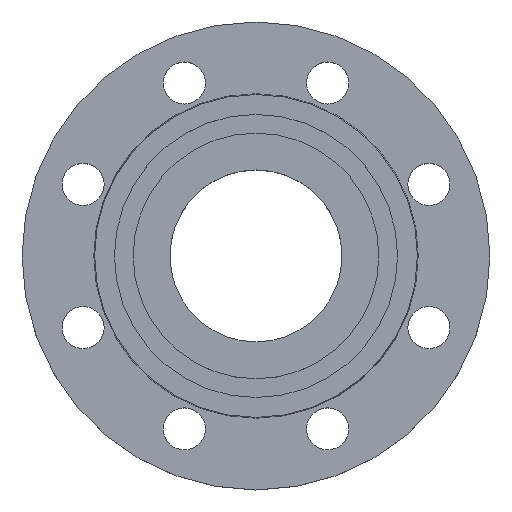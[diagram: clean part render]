
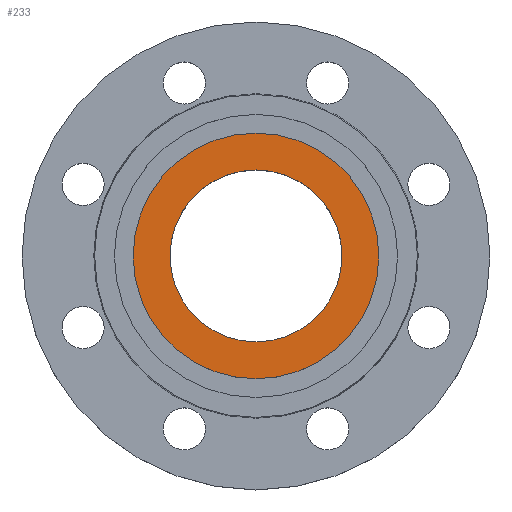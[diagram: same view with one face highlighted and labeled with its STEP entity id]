
A CAD part, top view. The second image highlights one B-rep face of the part: STEP entity #233.
In plain terms, the highlighted planar face has unit normal (0, 0, 1).
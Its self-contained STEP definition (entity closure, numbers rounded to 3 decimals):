
#95 = AXIS2_PLACEMENT_3D ( 'NONE', #670, #653, #648 ) ;
#130 = CIRCLE ( 'NONE', #140, 36.753 ) ;
#140 = AXIS2_PLACEMENT_3D ( 'NONE', #510, #503, #501 ) ;
#141 = CARTESIAN_POINT ( 'NONE',  ( 36.753, 0., 0. ) ) ;
#142 = CARTESIAN_POINT ( 'NONE',  ( -36.753, 0., 0. ) ) ;
#161 = CARTESIAN_POINT ( 'NONE',  ( -52.5, 0., 0. ) ) ;
#206 = CARTESIAN_POINT ( 'NONE',  ( 52.5, 0., 0. ) ) ;
#233 = ADVANCED_FACE ( 'NONE', ( #644, #674 ), #643, .T. ) ;
#247 = DIRECTION ( 'NONE',  ( -1., 0., 0. ) ) ;
#250 = DIRECTION ( 'NONE',  ( 0., 0., -1. ) ) ;
#254 = CARTESIAN_POINT ( 'NONE',  ( 0., 0., 0. ) ) ;
#257 = AXIS2_PLACEMENT_3D ( 'NONE', #303, #302, #301 ) ;
#272 = DIRECTION ( 'NONE',  ( -1., 0., 0. ) ) ;
#275 = DIRECTION ( 'NONE',  ( 0., 0., -1. ) ) ;
#276 = CARTESIAN_POINT ( 'NONE',  ( 0., 0., 0. ) ) ;
#286 = CIRCLE ( 'NONE', #707, 52.5 ) ;
#301 = DIRECTION ( 'NONE',  ( 1., 0., 0. ) ) ;
#302 = DIRECTION ( 'NONE',  ( 0., 0., 1. ) ) ;
#303 = CARTESIAN_POINT ( 'NONE',  ( 0., 0., 0. ) ) ;
#461 = CIRCLE ( 'NONE', #475, 52.5 ) ;
#475 = AXIS2_PLACEMENT_3D ( 'NONE', #276, #275, #272 ) ;
#501 = DIRECTION ( 'NONE',  ( 1., 0., 0. ) ) ;
#503 = DIRECTION ( 'NONE',  ( 0., 0., 1. ) ) ;
#509 = CIRCLE ( 'NONE', #257, 36.753 ) ;
#510 = CARTESIAN_POINT ( 'NONE',  ( 0., 0., 0. ) ) ;
#609 = EDGE_CURVE ( 'NONE', #1023, #1010, #130, .T. ) ;
#643 = PLANE ( 'NONE',  #95 ) ;
#644 = FACE_BOUND ( 'NONE', #763, .T. ) ;
#648 = DIRECTION ( 'NONE',  ( 1., 0., 0. ) ) ;
#653 = DIRECTION ( 'NONE',  ( 0., 0., 1. ) ) ;
#670 = CARTESIAN_POINT ( 'NONE',  ( 0., 0., 0. ) ) ;
#674 = FACE_OUTER_BOUND ( 'NONE', #817, .T. ) ;
#687 = ORIENTED_EDGE ( 'NONE', *, *, #609, .F. ) ;
#688 = ORIENTED_EDGE ( 'NONE', *, *, #899, .F. ) ;
#690 = ORIENTED_EDGE ( 'NONE', *, *, #945, .F. ) ;
#692 = ORIENTED_EDGE ( 'NONE', *, *, #917, .F. ) ;
#707 = AXIS2_PLACEMENT_3D ( 'NONE', #254, #250, #247 ) ;
#763 = EDGE_LOOP ( 'NONE', ( #687, #688 ) ) ;
#817 = EDGE_LOOP ( 'NONE', ( #690, #692 ) ) ;
#899 = EDGE_CURVE ( 'NONE', #1010, #1023, #509, .T. ) ;
#917 = EDGE_CURVE ( 'NONE', #982, #1004, #461, .T. ) ;
#945 = EDGE_CURVE ( 'NONE', #1004, #982, #286, .T. ) ;
#982 = VERTEX_POINT ( 'NONE', #206 ) ;
#1004 = VERTEX_POINT ( 'NONE', #161 ) ;
#1010 = VERTEX_POINT ( 'NONE', #142 ) ;
#1023 = VERTEX_POINT ( 'NONE', #141 ) ;
